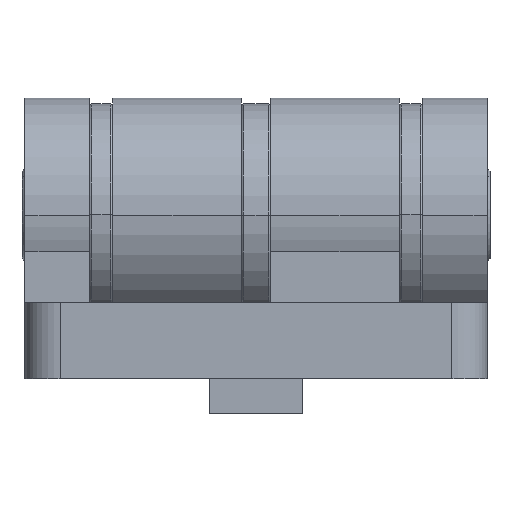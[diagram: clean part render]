
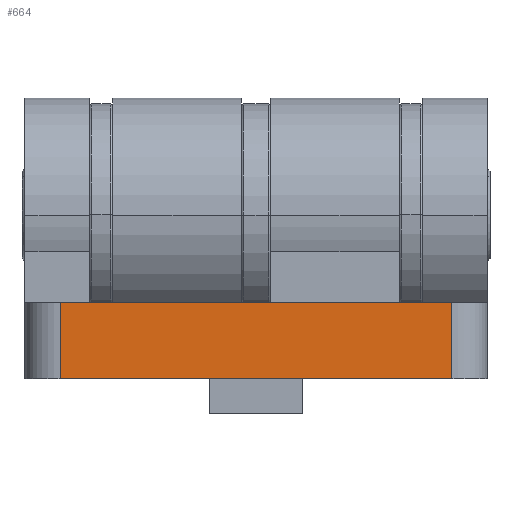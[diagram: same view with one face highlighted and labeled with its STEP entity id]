
A CAD part, left-side view. The second image highlights one B-rep face of the part: STEP entity #664.
In plain terms, the highlighted planar face has unit normal (-1, 0, 0) as drawn and (1, 0, 0) by its records, which use the part's own axes.
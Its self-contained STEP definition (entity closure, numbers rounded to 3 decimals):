
#23 = AXIS2_PLACEMENT_3D ( 'NONE', #2506, #849, #2622 ) ;
#29 = ORIENTED_EDGE ( 'NONE', *, *, #2395, .T. ) ;
#59 = DIRECTION ( 'NONE',  ( 0., 1., 0. ) ) ;
#65 = VECTOR ( 'NONE', #1577, 1000. ) ;
#336 = CARTESIAN_POINT ( 'NONE',  ( 15., 19.75, -3.25 ) ) ;
#393 = DIRECTION ( 'NONE',  ( 0., 0., 1. ) ) ;
#444 = CARTESIAN_POINT ( 'NONE',  ( 15., 16.75, 3.25 ) ) ;
#461 = FACE_OUTER_BOUND ( 'NONE', #1796, .T. ) ;
#541 = VECTOR ( 'NONE', #59, 1000. ) ;
#602 = CARTESIAN_POINT ( 'NONE',  ( 15., 16.75, 3.25 ) ) ;
#611 = LINE ( 'NONE', #444, #2940 ) ;
#657 = VECTOR ( 'NONE', #1308, 1000. ) ;
#664 = ADVANCED_FACE ( 'NONE', ( #461 ), #2402, .F. ) ;
#711 = CARTESIAN_POINT ( 'NONE',  ( 15., -16.75, 3.25 ) ) ;
#849 = DIRECTION ( 'NONE',  ( -1., 0., 0. ) ) ;
#1098 = VERTEX_POINT ( 'NONE', #2817 ) ;
#1110 = ORIENTED_EDGE ( 'NONE', *, *, #2870, .F. ) ;
#1148 = LINE ( 'NONE', #336, #541 ) ;
#1205 = CARTESIAN_POINT ( 'NONE',  ( 15., -16.75, -3.25 ) ) ;
#1308 = DIRECTION ( 'NONE',  ( 0., 1., 0. ) ) ;
#1373 = ORIENTED_EDGE ( 'NONE', *, *, #1397, .T. ) ;
#1397 = EDGE_CURVE ( 'NONE', #1098, #2306, #1928, .T. ) ;
#1446 = EDGE_CURVE ( 'NONE', #1541, #1552, #611, .T. ) ;
#1541 = VERTEX_POINT ( 'NONE', #2740 ) ;
#1552 = VERTEX_POINT ( 'NONE', #602 ) ;
#1577 = DIRECTION ( 'NONE',  ( 0., 0., -1. ) ) ;
#1796 = EDGE_LOOP ( 'NONE', ( #29, #2557, #1110, #1373 ) ) ;
#1928 = LINE ( 'NONE', #711, #65 ) ;
#1977 = LINE ( 'NONE', #2399, #657 ) ;
#2306 = VERTEX_POINT ( 'NONE', #1205 ) ;
#2395 = EDGE_CURVE ( 'NONE', #2306, #1541, #1148, .T. ) ;
#2399 = CARTESIAN_POINT ( 'NONE',  ( 15., 19.75, 3.25 ) ) ;
#2402 = PLANE ( 'NONE',  #23 ) ;
#2506 = CARTESIAN_POINT ( 'NONE',  ( 15., 19.75, 3.25 ) ) ;
#2557 = ORIENTED_EDGE ( 'NONE', *, *, #1446, .T. ) ;
#2622 = DIRECTION ( 'NONE',  ( 0., 0., 1. ) ) ;
#2740 = CARTESIAN_POINT ( 'NONE',  ( 15., 16.75, -3.25 ) ) ;
#2817 = CARTESIAN_POINT ( 'NONE',  ( 15., -16.75, 3.25 ) ) ;
#2870 = EDGE_CURVE ( 'NONE', #1098, #1552, #1977, .T. ) ;
#2940 = VECTOR ( 'NONE', #393, 1000. ) ;
